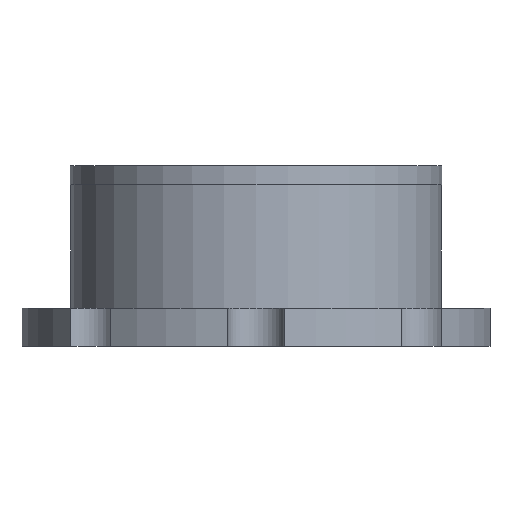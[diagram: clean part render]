
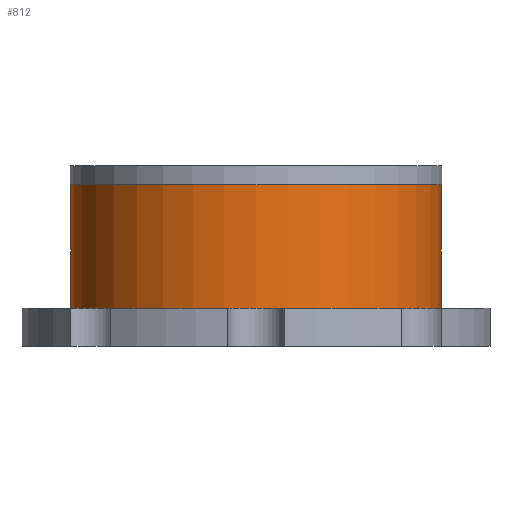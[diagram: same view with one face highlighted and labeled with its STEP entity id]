
A CAD part, front view. The second image highlights one B-rep face of the part: STEP entity #812.
In plain terms, the highlighted cylindrical face has radius 38.895 mm (diameter 77.79 mm), a partial arc.
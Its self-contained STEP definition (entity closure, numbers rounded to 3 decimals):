
#15 = CARTESIAN_POINT ( 'NONE',  ( 0., 0., 8. ) ) ;
#87 = CARTESIAN_POINT ( 'NONE',  ( 38.895, 0., 8. ) ) ;
#177 = CIRCLE ( 'NONE', #1332, 38.895 ) ;
#248 = DIRECTION ( 'NONE',  ( 0., 0., 1. ) ) ;
#355 = DIRECTION ( 'NONE',  ( 1., 0., 0. ) ) ;
#414 = VERTEX_POINT ( 'NONE', #906 ) ;
#455 = ORIENTED_EDGE ( 'NONE', *, *, #1797, .T. ) ;
#487 = DIRECTION ( 'NONE',  ( 0., 0., 1. ) ) ;
#525 = CARTESIAN_POINT ( 'NONE',  ( -38.895, 0., 8. ) ) ;
#547 = ORIENTED_EDGE ( 'NONE', *, *, #629, .F. ) ;
#575 = EDGE_LOOP ( 'NONE', ( #547, #455, #1569, #956 ) ) ;
#581 = DIRECTION ( 'NONE',  ( 0., 0., 1. ) ) ;
#623 = CARTESIAN_POINT ( 'NONE',  ( 0., 0., 8. ) ) ;
#629 = EDGE_CURVE ( 'NONE', #414, #1809, #1521, .T. ) ;
#631 = VERTEX_POINT ( 'NONE', #1095 ) ;
#718 = AXIS2_PLACEMENT_3D ( 'NONE', #15, #581, #1400 ) ;
#746 = VECTOR ( 'NONE', #248, 1000. ) ;
#773 = CARTESIAN_POINT ( 'NONE',  ( 38.895, 0., 8. ) ) ;
#812 = ADVANCED_FACE ( 'NONE', ( #840 ), #1288, .T. ) ;
#840 = FACE_OUTER_BOUND ( 'NONE', #575, .T. ) ;
#906 = CARTESIAN_POINT ( 'NONE',  ( -38.895, 0., 8. ) ) ;
#946 = EDGE_CURVE ( 'NONE', #1091, #631, #1316, .T. ) ;
#947 = VECTOR ( 'NONE', #1342, 1000. ) ;
#956 = ORIENTED_EDGE ( 'NONE', *, *, #1496, .F. ) ;
#1058 = CIRCLE ( 'NONE', #1711, 38.895 ) ;
#1091 = VERTEX_POINT ( 'NONE', #87 ) ;
#1095 = CARTESIAN_POINT ( 'NONE',  ( 38.895, 0., 34. ) ) ;
#1184 = DIRECTION ( 'NONE',  ( 1., 0., 0. ) ) ;
#1288 = CYLINDRICAL_SURFACE ( 'NONE', #718, 38.895 ) ;
#1316 = LINE ( 'NONE', #773, #947 ) ;
#1332 = AXIS2_PLACEMENT_3D ( 'NONE', #623, #487, #1184 ) ;
#1342 = DIRECTION ( 'NONE',  ( 0., 0., 1. ) ) ;
#1400 = DIRECTION ( 'NONE',  ( 1., 0., 0. ) ) ;
#1496 = EDGE_CURVE ( 'NONE', #1809, #631, #1058, .T. ) ;
#1521 = LINE ( 'NONE', #525, #746 ) ;
#1569 = ORIENTED_EDGE ( 'NONE', *, *, #946, .T. ) ;
#1592 = CARTESIAN_POINT ( 'NONE',  ( -38.895, 0., 34. ) ) ;
#1633 = DIRECTION ( 'NONE',  ( 0., 0., 1. ) ) ;
#1711 = AXIS2_PLACEMENT_3D ( 'NONE', #1765, #1633, #355 ) ;
#1765 = CARTESIAN_POINT ( 'NONE',  ( 0., 0., 34. ) ) ;
#1797 = EDGE_CURVE ( 'NONE', #414, #1091, #177, .T. ) ;
#1809 = VERTEX_POINT ( 'NONE', #1592 ) ;
